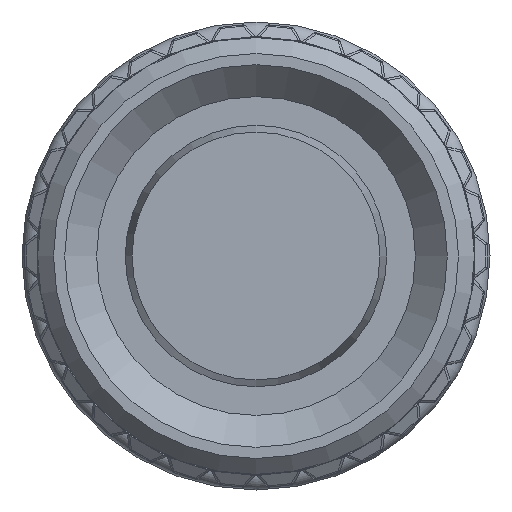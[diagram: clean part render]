
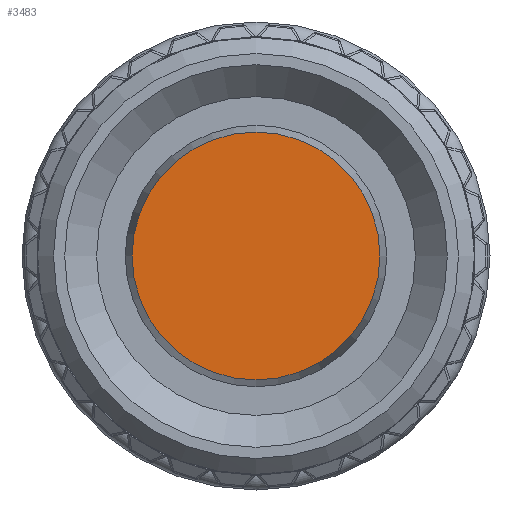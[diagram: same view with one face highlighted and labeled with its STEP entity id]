
A CAD part, left-side view. The second image highlights one B-rep face of the part: STEP entity #3483.
In plain terms, the highlighted planar face has unit normal (-1, 0, 0).
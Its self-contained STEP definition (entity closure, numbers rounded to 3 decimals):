
#3302=CARTESIAN_POINT('',(-14.5,3.886,0.0));
#3303=VERTEX_POINT('',#3302);
#3304=CARTESIAN_POINT('',(-14.5,0.0,0.0));
#3305=DIRECTION('',(1.0,0.0,0.0));
#3306=DIRECTION('',(0.0,1.0,0.0));
#3307=AXIS2_PLACEMENT_3D('',#3304,#3305,#3306);
#3308=CIRCLE('',#3307,3.886);
#3309=EDGE_CURVE('',#3303,#3303,#3308,.T.);
#3475=CARTESIAN_POINT('',(-14.5,1.943,0.0));
#3476=DIRECTION('',(-1.0,0.0,0.0));
#3477=DIRECTION('',(0.0,0.0,1.0));
#3478=AXIS2_PLACEMENT_3D('',#3475,#3476,#3477);
#3479=PLANE('',#3478);
#3480=ORIENTED_EDGE('',*,*,#3309,.F.);
#3481=EDGE_LOOP('',(#3480));
#3482=FACE_OUTER_BOUND('',#3481,.T.);
#3483=ADVANCED_FACE('',(#3482),#3479,.T.);
